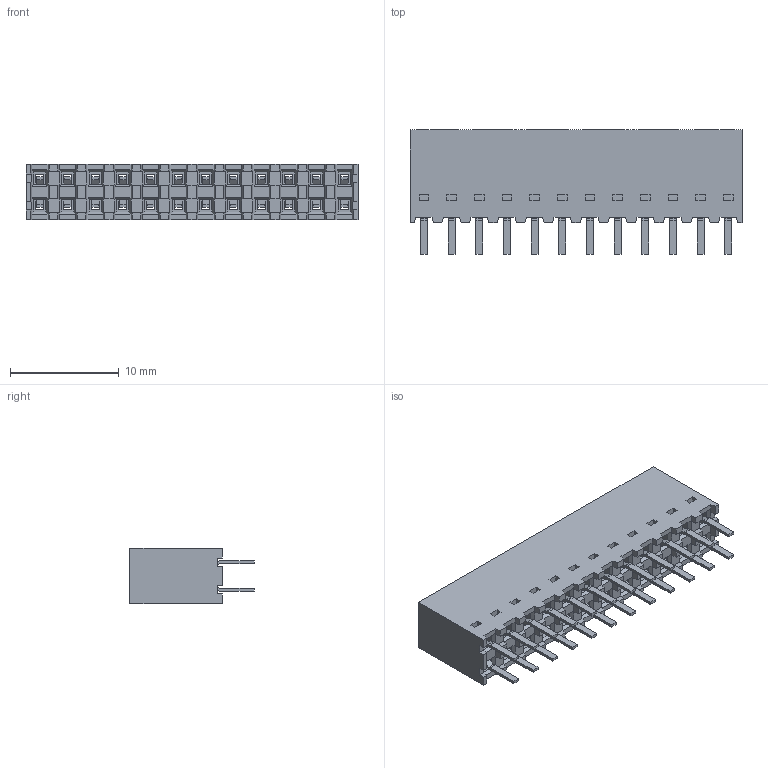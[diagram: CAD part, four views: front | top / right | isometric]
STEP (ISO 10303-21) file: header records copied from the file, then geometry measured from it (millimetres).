
FILE_DESCRIPTION((''),'2;1');
FILE_NAME('901512124','2014-04-11T',('me'),(''),'PRO/ENGINEER BY PARAMETRIC TECHNOLOGY CORPORATION, 2011490','PRO/ENGINEER BY PARAMETRIC TECHNOLOGY CORPORATION, 2011490','');
FILE_SCHEMA(('CONFIG_CONTROL_DESIGN'));
Length unit declared in the file: millimetre
Products named in the file (1): 901512124
Bounding box: 30.48 x 11.4 x 5.08 mm (x, y, z)
Volume: 1012.6 mm3; surface area: 1979 mm2
Topology: 1 solids, 1 shells, 1078 faces, 2830 edges, 1760 vertices
Faces by surface type: plane 982, cylinder 96
Entity records: 32333 total; most frequent: CARTESIAN_POINT 5621, ORIENTED_EDGE 5564, DIRECTION 5228, EDGE_CURVE 2782, VECTOR 2590, LINE 2590, VERTEX_POINT 1712, AXIS2_PLACEMENT_3D 1319
